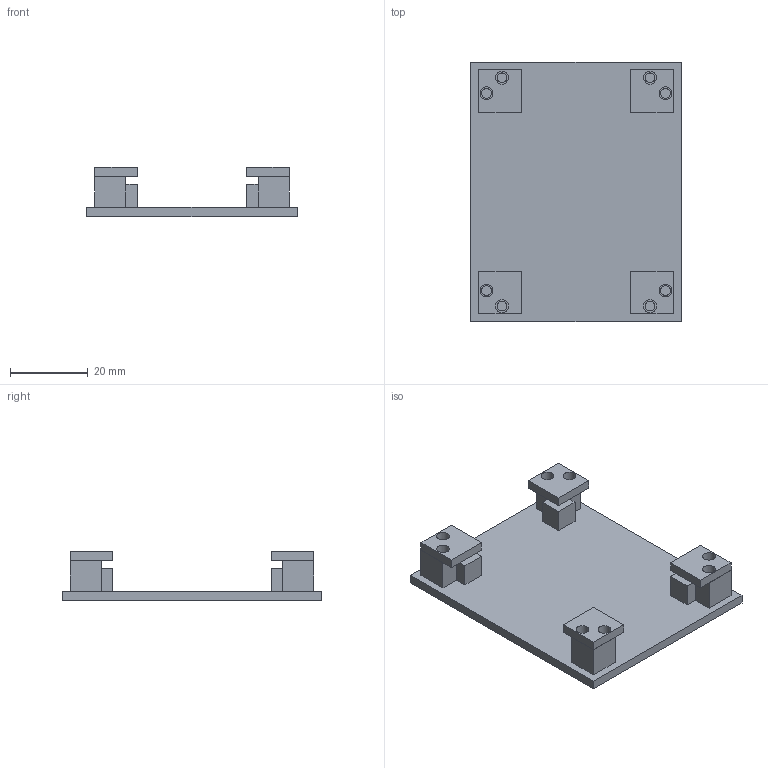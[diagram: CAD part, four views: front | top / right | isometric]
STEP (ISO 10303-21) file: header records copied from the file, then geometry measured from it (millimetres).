
FILE_DESCRIPTION(('Open CASCADE Model'),'2;1');
FILE_NAME('Open CASCADE Shape Model','2026-10-08T14:25:45',('Author'),( 'Open CASCADE'),'Open CASCADE STEP processor 7.9','Open CASCADE 7.9' ,'Unknown');
FILE_SCHEMA(('AUTOMOTIVE_DESIGN { 1 0 10303 214 1 1 1 1 }'));
Length unit declared in the file: millimetre
Products named in the file (6): EPLZON_corner_holder; part_0; part_1; part_2; part_3; part_4
Assembly tree (5 placements, depth 2):
  EPLZON_corner_holder
    part_0
    part_1
    part_2
    part_3
    part_4
Bounding box: 54.1 x 66.8 x 12.7 mm (x, y, z)
Volume: 12014.8 mm3; surface area: 11006 mm2
Topology: 5 solids, 5 shells, 102 faces, 240 edges, 160 vertices
Faces by surface type: plane 86, cylinder 16
Full cylindrical faces by diameter (mm): 2.5 x8, 3.3 x8
Entity records: 6076 total; most frequent: CARTESIAN_POINT 1052, DIRECTION 904, LINE 592, VECTOR 592, ORIENTED_EDGE 480, PCURVE 480, DEFINITIONAL_REPRESENTATION 480, EDGE_CURVE 240
